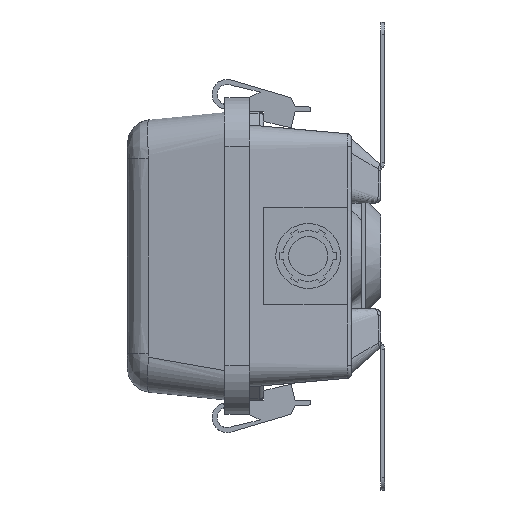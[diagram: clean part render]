
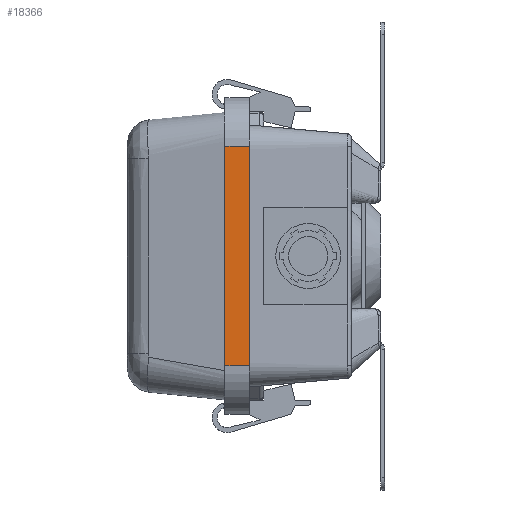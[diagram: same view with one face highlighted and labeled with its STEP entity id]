
A CAD part, left-side view. The second image highlights one B-rep face of the part: STEP entity #18366.
In plain terms, the highlighted planar face has unit normal (-1, 0, 0) as drawn and (1, 0, 0) by its records, which use the part's own axes.
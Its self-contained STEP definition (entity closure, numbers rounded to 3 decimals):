
#587 = EDGE_CURVE ( 'NONE', #16711, #3805, #19967, .T. ) ;
#1536 = CARTESIAN_POINT ( 'NONE',  ( 328.612, -53.34, -57.15 ) ) ;
#3330 = ORIENTED_EDGE ( 'NONE', *, *, #22385, .F. ) ;
#3479 = CARTESIAN_POINT ( 'NONE',  ( 328.612, -66.04, 57.15 ) ) ;
#3805 = VERTEX_POINT ( 'NONE', #1536 ) ;
#4436 = CARTESIAN_POINT ( 'NONE',  ( 328.612, -66.04, -57.15 ) ) ;
#4519 = VERTEX_POINT ( 'NONE', #13111 ) ;
#5260 = DIRECTION ( 'NONE',  ( 0., 1., 0. ) ) ;
#5300 = VECTOR ( 'NONE', #5260, 1000. ) ;
#5411 = PLANE ( 'NONE',  #13072 ) ;
#5483 = DIRECTION ( 'NONE',  ( 1., 0., 0. ) ) ;
#6302 = DIRECTION ( 'NONE',  ( 0., 0., -1. ) ) ;
#8070 = CARTESIAN_POINT ( 'NONE',  ( 328.612, -66.04, 57.15 ) ) ;
#8117 = VECTOR ( 'NONE', #15177, 1000. ) ;
#9169 = DIRECTION ( 'NONE',  ( 0., 1., 0. ) ) ;
#10054 = LINE ( 'NONE', #3479, #5300 ) ;
#10427 = ORIENTED_EDGE ( 'NONE', *, *, #11350, .T. ) ;
#10512 = VECTOR ( 'NONE', #9169, 1000. ) ;
#11350 = EDGE_CURVE ( 'NONE', #4519, #16711, #22328, .T. ) ;
#12870 = VECTOR ( 'NONE', #6302, 1000. ) ;
#13072 = AXIS2_PLACEMENT_3D ( 'NONE', #14401, #5483, #17957 ) ;
#13111 = CARTESIAN_POINT ( 'NONE',  ( 328.612, -66.04, 57.15 ) ) ;
#14366 = VERTEX_POINT ( 'NONE', #21204 ) ;
#14401 = CARTESIAN_POINT ( 'NONE',  ( 328.612, -66.04, 57.15 ) ) ;
#14493 = CARTESIAN_POINT ( 'NONE',  ( 328.612, -66.04, -57.15 ) ) ;
#15177 = DIRECTION ( 'NONE',  ( 0., 0., -1. ) ) ;
#15466 = FACE_OUTER_BOUND ( 'NONE', #20949, .T. ) ;
#15892 = ORIENTED_EDGE ( 'NONE', *, *, #587, .T. ) ;
#16711 = VERTEX_POINT ( 'NONE', #4436 ) ;
#17590 = LINE ( 'NONE', #22269, #12870 ) ;
#17957 = DIRECTION ( 'NONE',  ( 0., 0., -1. ) ) ;
#18366 = ADVANCED_FACE ( 'NONE', ( #15466 ), #5411, .T. ) ;
#18584 = ORIENTED_EDGE ( 'NONE', *, *, #22096, .F. ) ;
#19967 = LINE ( 'NONE', #14493, #10512 ) ;
#20949 = EDGE_LOOP ( 'NONE', ( #18584, #3330, #10427, #15892 ) ) ;
#21204 = CARTESIAN_POINT ( 'NONE',  ( 328.612, -53.34, 57.15 ) ) ;
#22096 = EDGE_CURVE ( 'NONE', #14366, #3805, #17590, .T. ) ;
#22269 = CARTESIAN_POINT ( 'NONE',  ( 328.612, -53.34, 57.15 ) ) ;
#22328 = LINE ( 'NONE', #8070, #8117 ) ;
#22385 = EDGE_CURVE ( 'NONE', #4519, #14366, #10054, .T. ) ;
